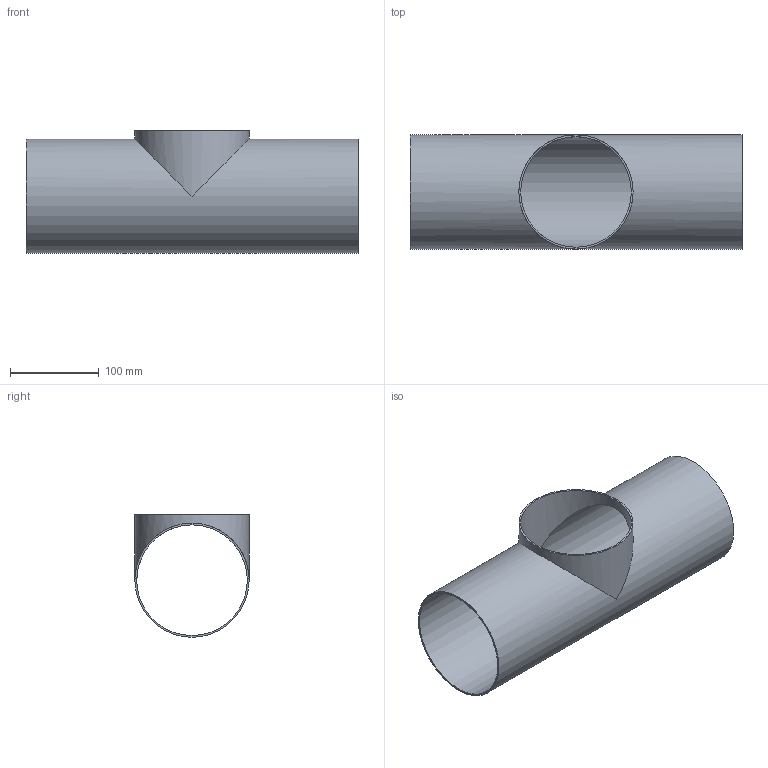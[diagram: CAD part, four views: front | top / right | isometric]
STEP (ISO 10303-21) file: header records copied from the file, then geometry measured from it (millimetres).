
FILE_DESCRIPTION(('FreeCAD Model'),'2;1');
FILE_NAME( '/home/martin/Documents/proyect/accesorios/stp/te_short_DN-125.step', '2018-01-07T08:12:27',('Author'),(''), 'Open CASCADE STEP processor 6.8','FreeCAD','Unknown');
FILE_SCHEMA(('AUTOMOTIVE_DESIGN_CC2 { 1 2 10303 214 -1 1 5 4 }'));
Length unit declared in the file: millimetre
Products named in the file (1): te_short_DN-125
Bounding box: 375 x 129 x 138.5 mm (x, y, z)
Volume: 293764.7 mm3; surface area: 296148 mm2
Topology: 1 solids, 1 shells, 7 faces, 16 edges, 12 vertices
Faces by surface type: cylinder 4, plane 3
Full cylindrical faces by diameter (mm): 125 x2, 129 x2
Entity records: 539 total; most frequent: CARTESIAN_POINT 180, DIRECTION 64, ORIENTED_EDGE 32, PCURVE 32, DEFINITIONAL_REPRESENTATION 32, AXIS2_PLACEMENT_3D 20, LINE 18, VECTOR 18
